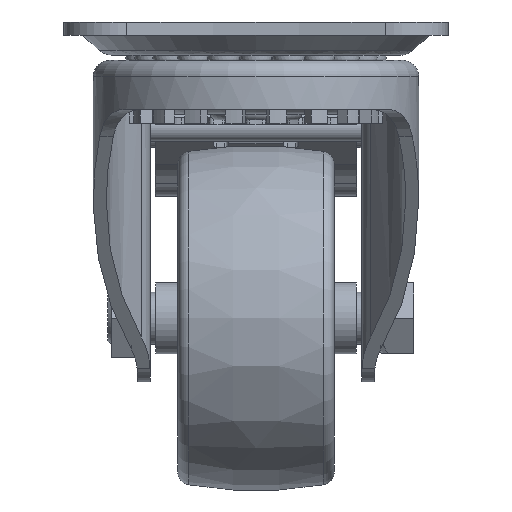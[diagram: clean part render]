
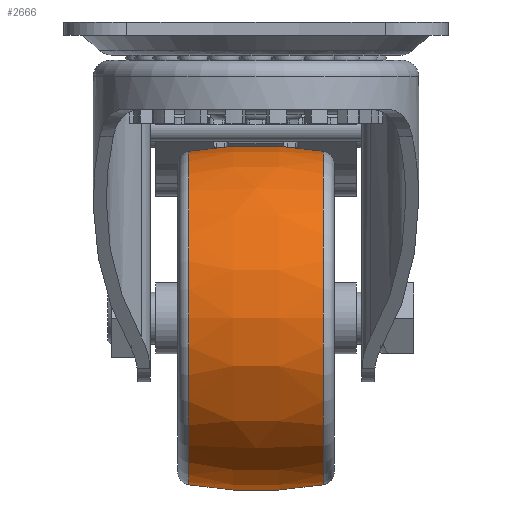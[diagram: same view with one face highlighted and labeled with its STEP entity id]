
A CAD part, left-side view. The second image highlights one B-rep face of the part: STEP entity #2666.
In plain terms, the highlighted free-form (B-spline) face has degree [3, 3] with [4, 7] control points.
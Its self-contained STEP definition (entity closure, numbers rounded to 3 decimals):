
#36=(
BOUNDED_SURFACE()
B_SPLINE_SURFACE(3,3,((#30599,#30600,#30601,#30602,#30603,#30604,#30605),
(#30606,#30607,#30608,#30609,#30610,#30611,#30612),(#30613,#30614,#30615,
#30616,#30617,#30618,#30619),(#30620,#30621,#30622,#30623,#30624,#30625,
#30626)),.UNSPECIFIED.,.F.,.T.,.F.)
B_SPLINE_SURFACE_WITH_KNOTS((4,4),(1,3,3,3,1),(0.,1.),(-0.5,0.,0.5,1.,1.5),
 .UNSPECIFIED.)
GEOMETRIC_REPRESENTATION_ITEM()
RATIONAL_B_SPLINE_SURFACE(((1.,0.333,0.333,1.,0.333,
0.333,1.),(0.99,0.33,0.33,
0.99,0.33,0.33,0.99),(0.99,
0.33,0.33,0.99,0.33,0.33,
0.99),(1.,0.333,0.333,1.,0.333,
0.333,1.)))
REPRESENTATION_ITEM('')
SURFACE()
);
#706=FACE_BOUND('',#4535,.T.);
#707=FACE_BOUND('',#4536,.T.);
#1240=CIRCLE('',#14966,25.601);
#1241=CIRCLE('',#14967,25.601);
#2666=ADVANCED_FACE('',(#706,#707),#36,.T.);
#4535=EDGE_LOOP('',(#8171));
#4536=EDGE_LOOP('',(#8172));
#8171=ORIENTED_EDGE('',*,*,#11945,.T.);
#8172=ORIENTED_EDGE('',*,*,#11946,.T.);
#9988=VERTEX_POINT('',#30596);
#9989=VERTEX_POINT('',#30598);
#11945=EDGE_CURVE('',#9988,#9988,#1240,.T.);
#11946=EDGE_CURVE('',#9989,#9989,#1241,.T.);
#14966=AXIS2_PLACEMENT_3D('',#30595,#18109,#18110);
#14967=AXIS2_PLACEMENT_3D('',#30597,#18111,#18112);
#18109=DIRECTION('',(0.,1.,0.));
#18110=DIRECTION('',(1.,0.,0.));
#18111=DIRECTION('',(0.,-1.,0.));
#18112=DIRECTION('',(-1.,0.,0.));
#30595=CARTESIAN_POINT('',(26.,-10.345,-45.5));
#30596=CARTESIAN_POINT('',(51.601,-10.345,-45.5));
#30597=CARTESIAN_POINT('',(26.,10.345,-45.5));
#30598=CARTESIAN_POINT('',(0.399,10.345,-45.5));
#30599=CARTESIAN_POINT('',(0.399,-10.345,-45.5));
#30600=CARTESIAN_POINT('',(0.399,-10.345,-96.703));
#30601=CARTESIAN_POINT('',(51.601,-10.345,-96.703));
#30602=CARTESIAN_POINT('',(51.601,-10.345,-45.5));
#30603=CARTESIAN_POINT('',(51.601,-10.345,5.703));
#30604=CARTESIAN_POINT('',(0.399,-10.345,5.703));
#30605=CARTESIAN_POINT('',(0.399,-10.345,-45.5));
#30606=CARTESIAN_POINT('',(-0.803,-3.483,-45.5));
#30607=CARTESIAN_POINT('',(-0.803,-3.483,-99.105));
#30608=CARTESIAN_POINT('',(52.803,-3.483,-99.105));
#30609=CARTESIAN_POINT('',(52.803,-3.483,-45.5));
#30610=CARTESIAN_POINT('',(52.803,-3.483,8.105));
#30611=CARTESIAN_POINT('',(-0.803,-3.483,8.105));
#30612=CARTESIAN_POINT('',(-0.803,-3.483,-45.5));
#30613=CARTESIAN_POINT('',(-0.803,3.483,-45.5));
#30614=CARTESIAN_POINT('',(-0.803,3.483,-99.105));
#30615=CARTESIAN_POINT('',(52.803,3.483,-99.105));
#30616=CARTESIAN_POINT('',(52.803,3.483,-45.5));
#30617=CARTESIAN_POINT('',(52.803,3.483,8.105));
#30618=CARTESIAN_POINT('',(-0.803,3.483,8.105));
#30619=CARTESIAN_POINT('',(-0.803,3.483,-45.5));
#30620=CARTESIAN_POINT('',(0.399,10.345,-45.5));
#30621=CARTESIAN_POINT('',(0.399,10.345,-96.703));
#30622=CARTESIAN_POINT('',(51.601,10.345,-96.703));
#30623=CARTESIAN_POINT('',(51.601,10.345,-45.5));
#30624=CARTESIAN_POINT('',(51.601,10.345,5.703));
#30625=CARTESIAN_POINT('',(0.399,10.345,5.703));
#30626=CARTESIAN_POINT('',(0.399,10.345,-45.5));
